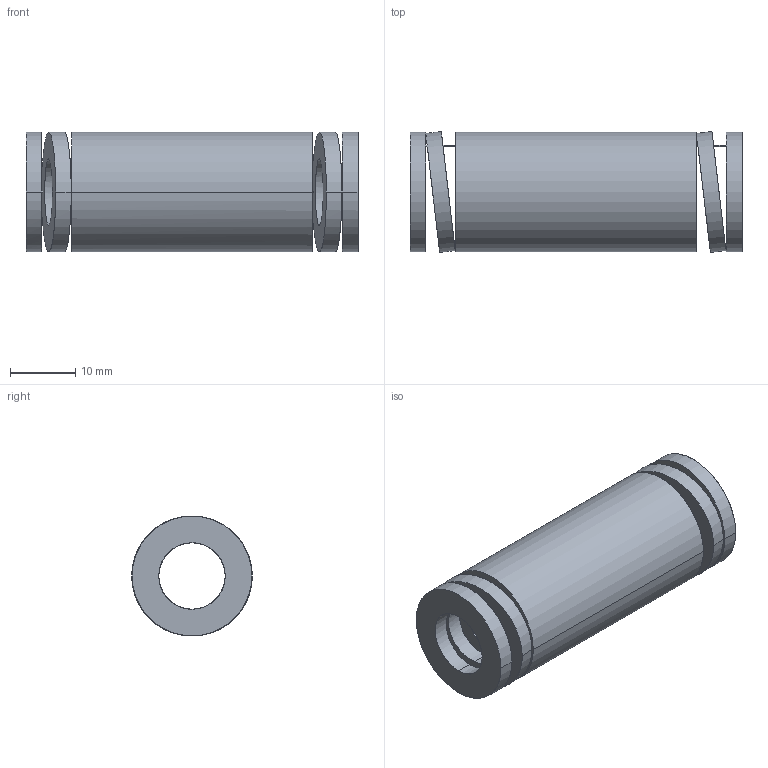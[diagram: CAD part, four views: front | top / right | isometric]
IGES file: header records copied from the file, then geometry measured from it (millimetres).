
Start section: START RECORD GO HERE.
Global section: file name: 392-B20-051.igs; native system: DASSAULT SYSTEMES CATIA V5 R20 - www.3ds.com; preprocessor: CATIA Version 5 Release 20 ; author: Utente; organization: NB04-ASUS; date: 20210812.155706; units: millimetre
Bounding box: 51 x 18.55 x 18.4 mm (x, y, z)
Surface area: 6026.7 mm2 (no closed solid volume)
Topology: 0 solids, 0 shells, 38 faces, 184 edges, 184 vertices
Faces by surface type: revolution 28, plane 10
